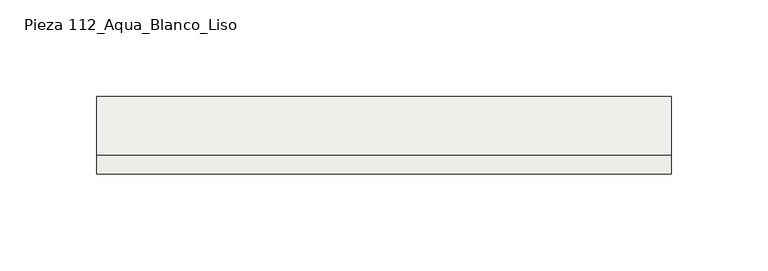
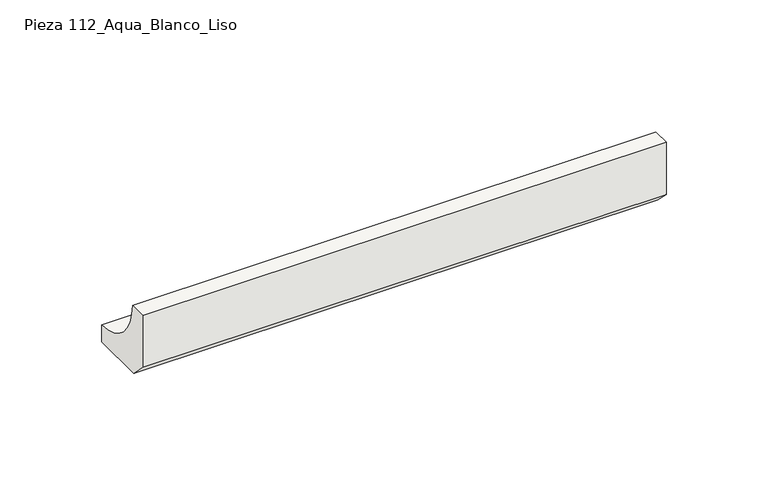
"""IFC4 building model written with IfcOpenShell, lengths in millimetres: slab geometry, ROSA GRES_112 : Pieza 112_Aqua_Blanco_Liso."""

from ifc_helpers import new_model, si_unit, point, frame, frame_2d, origin, place, context, project, spatial, polyline, circle_curve, trimmed, segment, composite_curve, outline, extrude, source, transform, mapped, element, save


def pieza_112_aqua_blanco_liso_8053cc1b(model_context):
    return source(origin(), model_context, "Body", "SweptSolid", [
        extrude(outline(composite_curve([segment(polyline([(-9.9734114, 8.7114978), (-9.9734114, 40.0), (0.0, 40.0)]), True, "CONTINUOUS"), segment(trimmed(circle_curve(frame_2d((30.0221432, 39.9955547)), 30.0221435), [point((0.0, 40.0))], [point((30.0265886, 9.9734114))], True, "CARTESIAN"), True, "CONTINUOUS"), segment(polyline([(30.0265886, 9.9734114), (30.0265886, 0.0), (-1.2619137, 0.0), (-9.9734114, 8.7114978)]), True, "CONTINUOUS")], self_intersect=False)), frame((0.0, 0.0, 0.0), z_axis=(1.0, 0.0, 0.0), x_axis=(0.0, 1.0, 0.0)), (0.0, 0.0, 1.0), 296.5),
    ])


if __name__ == "__main__":
    model = new_model("IFC4")
    model_context = context("Model", 3, world=origin())
    ifc_project = project(units=[si_unit("LENGTHUNIT", "METRE", prefix="MILLI")], contexts=[model_context])
    site = spatial("IfcSite", under=ifc_project)
    building = spatial("IfcBuilding", under=site)
    placement = place(None, origin())
    pieza_112_aqua_blanco_liso_shape = pieza_112_aqua_blanco_liso_8053cc1b(model_context)
    element("IfcSlab", 1, ObjectType="ROSA GRES_112 : Pieza 112_Aqua_Blanco_Liso", at=placement, inside=building, context=model_context, shape_type="MappedRepresentation", body=[
        mapped(pieza_112_aqua_blanco_liso_shape, transform((0.0, 0.0, 0.0), x_axis=(1.0, 0.0, 0.0), y_axis=(0.0, 1.0, 0.0), z_axis=(0.0, 0.0, 1.0))),
    ])
    save(model, "model.ifc")
